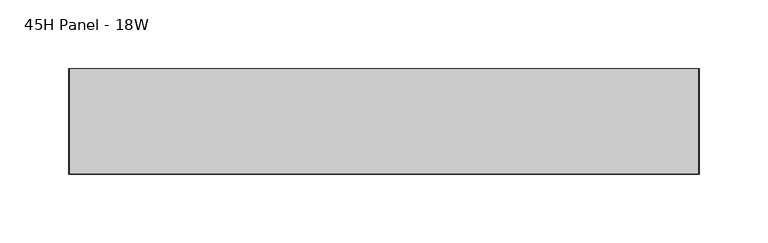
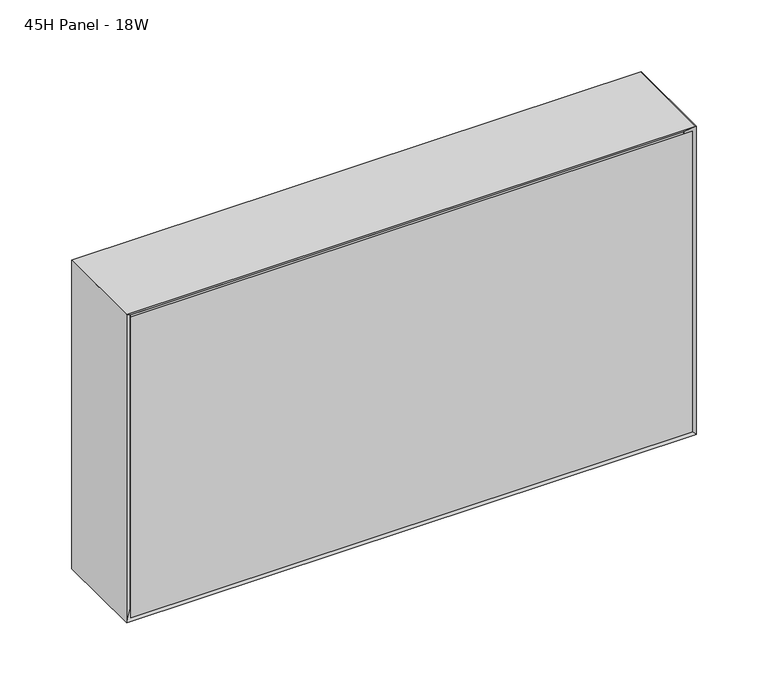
"""IFC4 building model written with IfcOpenShell, lengths in millimetres: furniture geometry, Steelcase - Montage - Frame - 10H - Enhanced Standard - Single Stack-On : 45H Panel - 18W."""

from ifc_helpers import new_model, si_unit, frame, origin, place, context, project, spatial, polyline, outline, extrude, faceted_brep, source, transform, mapped, element, save


def furniture_45h_panel_18w_48be69c5(model_context):
    return source(origin(), model_context, "Body", "SolidModel", [
        faceted_brep([(447.6750027, 31.7500194, 1389.0752415), (9.5250028, 31.7500194, 1389.0752415), (9.5250028, 31.7500194, 1146.175), (447.6750027, 31.7500194, 1146.175), (454.025, 38.1000194, 1395.4252415), (454.025, 38.1000194, 1139.825), (3.175, 38.1000194, 1139.825), (3.175, 38.1000194, 1395.4252415)], [[[0, 1, 2, 3]], [[4, 5, 6, 7]], [[4, 0, 3, 5]], [[5, 3, 2, 6]], [[6, 2, 1, 7]], [[7, 1, 0, 4]]]),
        faceted_brep([(447.6750027, -31.7500194, 1389.0752415), (447.6750027, -31.7500194, 1146.175), (9.5250028, -31.7500194, 1146.175), (9.5250028, -31.7500194, 1389.0752415), (454.025, -38.1000194, 1395.4252415), (3.175, -38.1000194, 1395.4252415), (3.175, -38.1000194, 1139.825), (454.025, -38.1000194, 1139.825)], [[[0, 1, 2, 3]], [[4, 5, 6, 7]], [[4, 7, 1, 0]], [[7, 6, 2, 1]], [[6, 5, 3, 2]], [[5, 4, 0, 3]]]),
        faceted_brep([(457.2, -38.1000015, 1136.65), (457.2, 38.1000015, 1136.65), (457.2, 38.1000015, 1398.6002415), (457.2, -38.1000106, 1398.6002414), (0.0, 38.1000015, 1136.65), (0.0, -38.1000015, 1136.65), (0.0, -38.1000015, 1398.6002415), (0.0, 38.1000015, 1398.6002415), (6.3500484, 31.749953, 1143.0000484), (450.8499879, 31.749953, 1143.0000484), (6.35, -31.749953, 1143.0000484), (450.8499879, -31.749953, 1143.0000484), (6.3500169, 31.7499846, 1392.2502245), (6.3500012, -31.7500003, 1392.250193), (450.8499879, -31.7499973, 1392.250193), (450.8499879, 31.7499885, 1392.2502293)], [[[0, 1, 2, 3]], [[4, 5, 6, 7]], [[1, 0, 5, 4]], [[1, 4, 8, 9]], [[9, 8, 10, 11]], [[5, 0, 11, 10]], [[4, 7, 12, 8]], [[6, 5, 10, 13]], [[10, 8, 12, 13]], [[9, 11, 14, 15]], [[0, 3, 14, 11]], [[2, 1, 9, 15]], [[3, 2, 15, 14]], [[7, 6, 13, 12]]]),
        faceted_brep([(457.2, -38.1000015, 1398.6002415), (0.0, -38.1000015, 1398.6002415), (6.3500484, -31.749953, 1392.250193), (450.8499516, -31.749953, 1392.250193), (6.3500484, 31.749953, 1392.250193), (450.8499516, 31.749953, 1392.250193), (0.0, 38.1000015, 1398.6002415), (457.2, 38.1000015, 1398.6002415)], [[[0, 1, 2, 3]], [[3, 2, 4, 5]], [[6, 7, 5, 4]], [[1, 0, 7, 6]], [[2, 1, 6, 4]], [[0, 3, 5, 7]]]),
        extrude(outline(polyline([(450.8499879, 31.7500016), (450.8499879, -31.7499985), (6.35, -31.7499985), (6.35, 31.7500016), (450.8499879, 31.7500016)])), frame((0.0, 0.0, 1142.9952145), z_axis=(0.0, 0.0, 1.0), x_axis=(1.0, 0.0, 0.0)), (0.0, 0.0, 1.0), 249.2549785),
    ])


if __name__ == "__main__":
    model = new_model("IFC4")
    model_context = context("Model", 3, world=origin())
    ifc_project = project(units=[si_unit("LENGTHUNIT", "METRE", prefix="MILLI")], contexts=[model_context])
    site = spatial("IfcSite", under=ifc_project)
    building = spatial("IfcBuilding", under=site)
    placement = place(None, origin())
    furniture_45h_panel_18w_shape = furniture_45h_panel_18w_48be69c5(model_context)
    element("IfcFurniture", 1, ObjectType="Steelcase - Montage - Frame - 10H - Enhanced Standard - Single Stack-On : 45H Panel - 18W", at=placement, inside=building, context=model_context, shape_type="MappedRepresentation", body=[
        mapped(furniture_45h_panel_18w_shape, transform((0.0, 0.0, 0.0), x_axis=(1.0, 0.0, 0.0), y_axis=(0.0, 1.0, 0.0), z_axis=(0.0, 0.0, 1.0))),
    ])
    save(model, "model.ifc")
